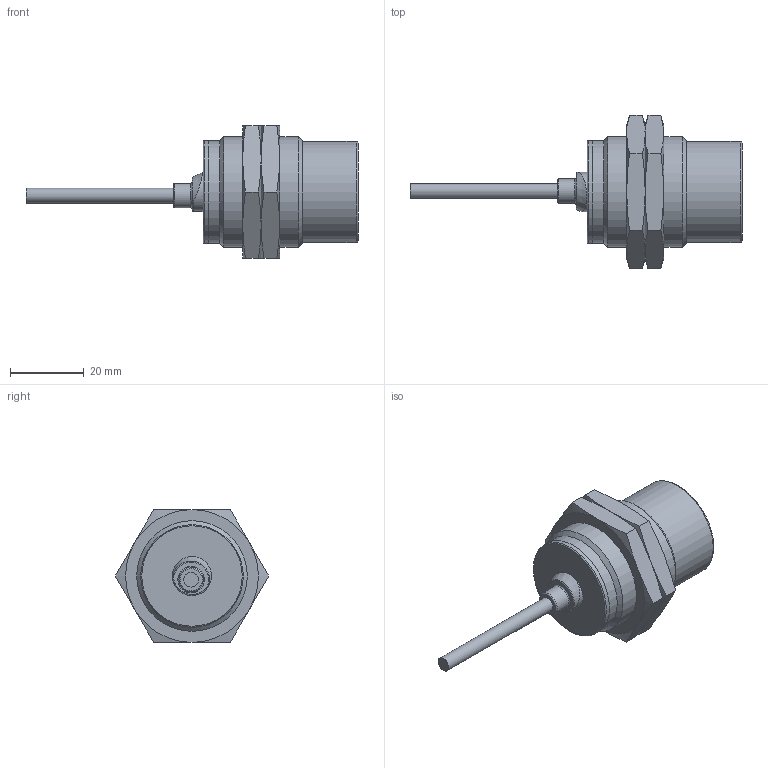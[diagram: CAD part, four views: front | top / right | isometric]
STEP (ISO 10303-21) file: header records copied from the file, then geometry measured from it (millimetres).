
FILE_DESCRIPTION( ( 'STEP AP203' ), '1' );
FILE_NAME( 'p:/temp/worker_106/2624_3768/app_53_02015052110522750162431192d056f_00_00_00_000/STEP/IIS243_2_03.stp', ' ', ( ' ' ), ( ' ' ), 'PSStep 15.0.47', 'PARTsolutions', ' ' );
FILE_SCHEMA( ( 'CONFIG_CONTROL_DESIGN' ) );
Length unit declared in the file: millimetre
Products named in the file (3): IIS243; _IIS243_p1; _IIS208_p2
Assembly tree (3 placements, depth 2):
  IIS243
    _IIS243_p1
    _IIS208_p2  x2
Bounding box: 90 x 41.57 x 36 mm (x, y, z)
Volume: 32951.9 mm3; surface area: 9563.4 mm2
Topology: 3 solids, 3 shells, 69 faces, 140 edges, 82 vertices
Faces by surface type: cone 31, plane 23, cylinder 9, torus 6
Full cylindrical faces by diameter (mm): 4 x1, 6.6 x1, 10.6 x1, 27.4 x1, 27.8 x1, 27.82 x1, 28.376 x2, 30 x1
Entity records: 1322 total; most frequent: CARTESIAN_POINT 360, DIRECTION 182, ORIENTED_EDGE 146, AXIS2_PLACEMENT_3D 88, EDGE_CURVE 73, EDGE_LOOP 69, FACE_OUTER_BOUND 58, VERTEX_POINT 52
